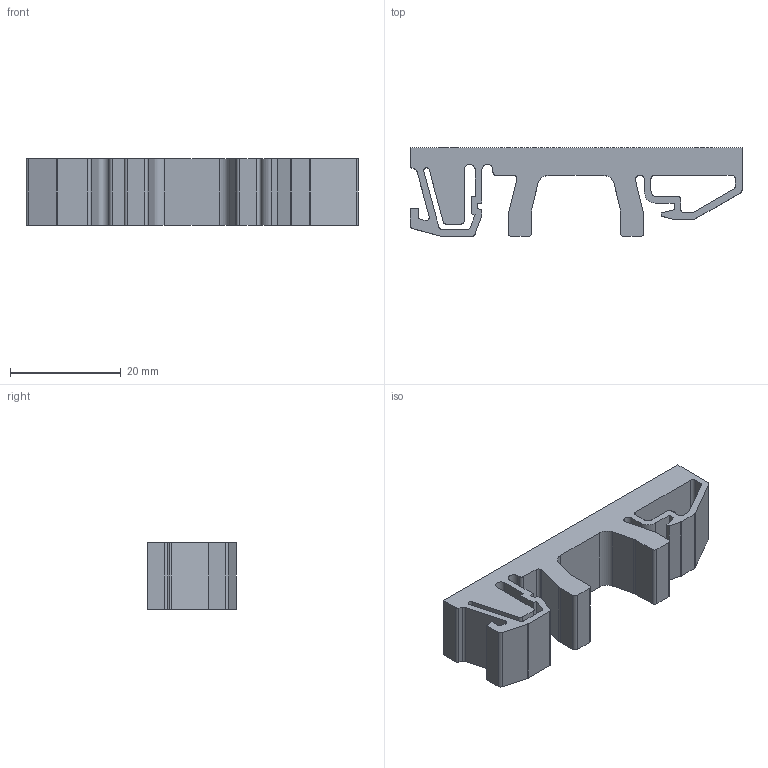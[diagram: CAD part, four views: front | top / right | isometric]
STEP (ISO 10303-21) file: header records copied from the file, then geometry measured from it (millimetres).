
FILE_DESCRIPTION (( 'STEP AP203' ), '1' );
FILE_NAME ('dins_clip.STEP', '2025-07-26T22:05:09', ( '' ), ( '' ), 'SwSTEP 2.0', 'SolidWorks 2022', '' );
FILE_SCHEMA (( 'CONFIG_CONTROL_DESIGN' ));
Length unit declared in the file: millimetre
Products named in the file (1): dins_clip
Bounding box: 60 x 16 x 12 mm (x, y, z)
Volume: 5956.2 mm3; surface area: 4901.6 mm2
Topology: 1 solids, 1 shells, 102 faces, 297 edges, 198 vertices
Faces by surface type: plane 58, cylinder 44
Entity records: 3478 total; most frequent: CARTESIAN_POINT 598, ORIENTED_EDGE 594, DIRECTION 591, EDGE_CURVE 297, LINE 209, VECTOR 209, VERTEX_POINT 198, AXIS2_PLACEMENT_3D 191
